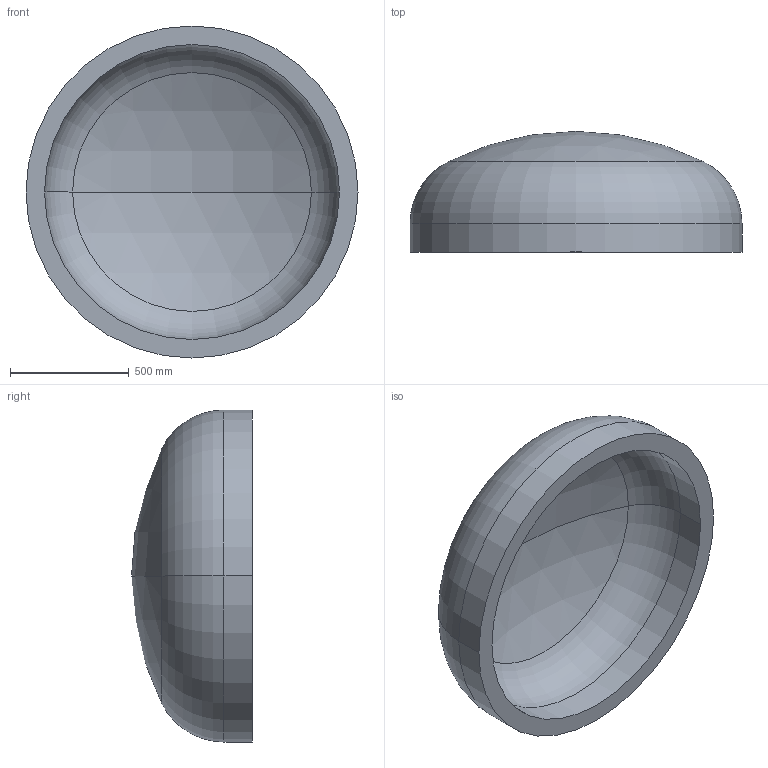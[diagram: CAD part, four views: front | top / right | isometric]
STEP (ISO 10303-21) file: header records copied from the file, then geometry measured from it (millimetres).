
FILE_DESCRIPTION (( 'STEP AP203' ), '1' );
FILE_NAME ('DIN 28013 Korbbogenform_-_Boden DIN 28013 - 1400 x 120 - I - s=78.step', '2016-07-01T10:25:28', ( '' ), ( '' ), 'SwSTEP 2.0', 'SolidWorks 2013', '' );
FILE_SCHEMA (( 'CONFIG_CONTROL_DESIGN' ));
Length unit declared in the file: millimetre
Products named in the file (1): DIN 28013 Korbbogenform_-_Boden DIN 28013 - 1400 x 120 - I - s=78
Bounding box: 1400 x 509.68 x 1400 mm (x, y, z)
Volume: 193644134.9 mm3; surface area: 5301923.8 mm2
Topology: 1 solids, 1 shells, 13 faces, 24 edges, 14 vertices
Faces by surface type: torus 4, cylinder 4, sphere 4, plane 1
Entity records: 407 total; most frequent: DIRECTION 72, CARTESIAN_POINT 52, ORIENTED_EDGE 48, AXIS2_PLACEMENT_3D 34, EDGE_CURVE 24, CIRCLE 20, VERTEX_POINT 14, EDGE_LOOP 14
